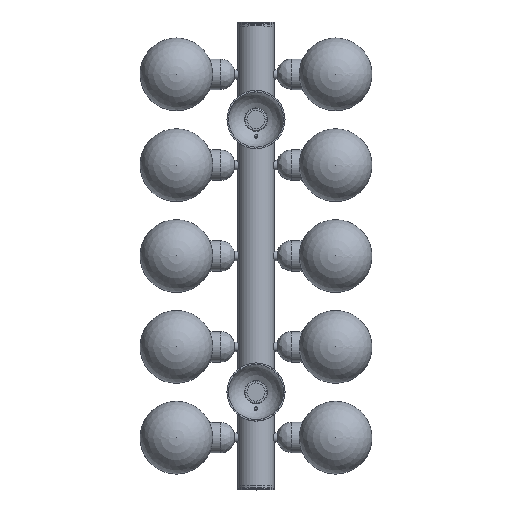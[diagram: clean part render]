
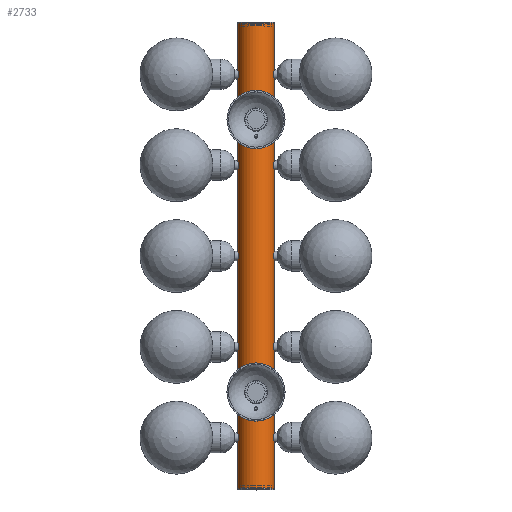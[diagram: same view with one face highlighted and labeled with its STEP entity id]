
A CAD part, top view. The second image highlights one B-rep face of the part: STEP entity #2733.
In plain terms, the highlighted cylindrical face has radius 25 mm (diameter 50 mm), a full revolution.
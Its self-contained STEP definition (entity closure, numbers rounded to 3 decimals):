
#259=LINE('',#4422,#352);
#352=VECTOR('',#3473,25.);
#445=CYLINDRICAL_SURFACE('',#3036,25.);
#536=FACE_OUTER_BOUND('',#765,.T.);
#765=EDGE_LOOP('',(#1893,#1894,#1895,#1896));
#1026=CIRCLE('',#3033,25.);
#1027=CIRCLE('',#3035,25.);
#1258=VERTEX_POINT('',#4416);
#1259=VERTEX_POINT('',#4419);
#1514=EDGE_CURVE('',#1258,#1258,#1026,.T.);
#1515=EDGE_CURVE('',#1259,#1259,#1027,.T.);
#1516=EDGE_CURVE('',#1258,#1259,#259,.T.);
#1893=ORIENTED_EDGE('',*,*,#1514,.F.);
#1894=ORIENTED_EDGE('',*,*,#1516,.T.);
#1895=ORIENTED_EDGE('',*,*,#1515,.F.);
#1896=ORIENTED_EDGE('',*,*,#1516,.F.);
#2733=ADVANCED_FACE('',(#536),#445,.T.);
#3033=AXIS2_PLACEMENT_3D('',#4417,#3465,#3466);
#3035=AXIS2_PLACEMENT_3D('',#4420,#3469,#3470);
#3036=AXIS2_PLACEMENT_3D('',#4421,#3471,#3472);
#3465=DIRECTION('center_axis',(0.,-1.,0.));
#3466=DIRECTION('ref_axis',(-1.,0.,0.));
#3469=DIRECTION('center_axis',(0.,1.,0.));
#3470=DIRECTION('ref_axis',(-1.,0.,0.));
#3471=DIRECTION('center_axis',(0.,-1.,0.));
#3472=DIRECTION('ref_axis',(-1.,0.,0.));
#3473=DIRECTION('',(0.,1.,0.));
#4416=CARTESIAN_POINT('',(25.,-320.,148.));
#4417=CARTESIAN_POINT('Origin',(0.,-320.,148.));
#4419=CARTESIAN_POINT('',(25.,320.,148.));
#4420=CARTESIAN_POINT('Origin',(0.,320.,148.));
#4421=CARTESIAN_POINT('Origin',(0.,320.,148.));
#4422=CARTESIAN_POINT('',(25.,320.,148.));
